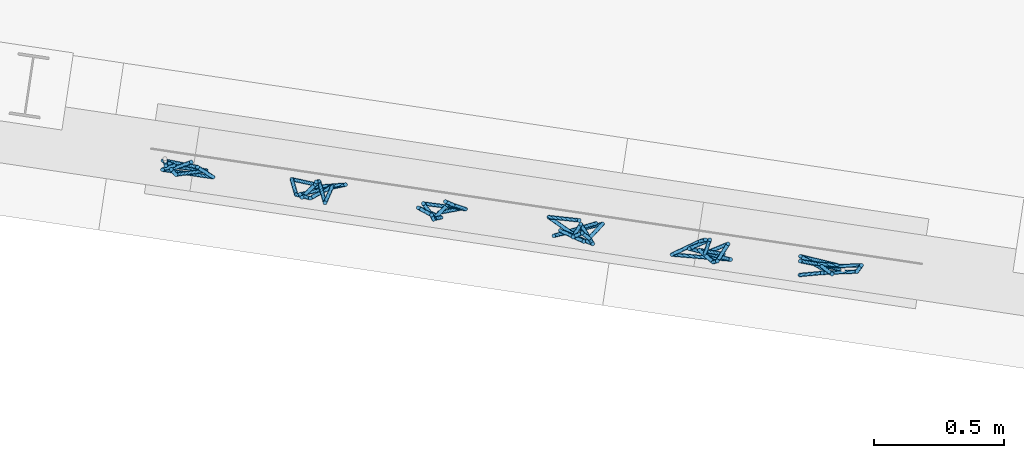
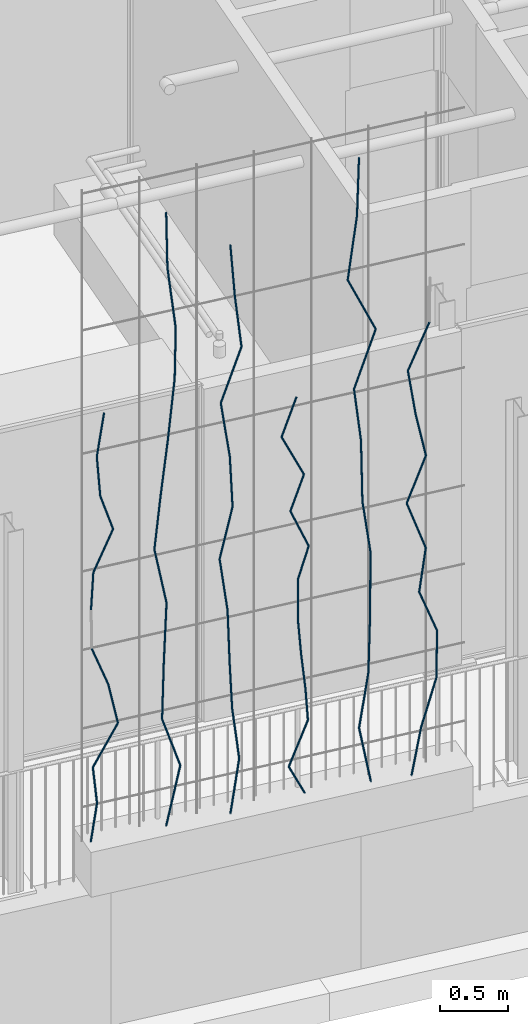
# One storey, part 111 of 142: 64 members, 1 element without a shape of its own.
"""IFC4 building model written with IfcOpenShell, lengths in metres."""

from ifc_helpers import new_model, si_unit, direction, frame, origin_with_axes, place, context, subcontext, project, spatial, circle, extrude, material, material_profile, profile_set, profile_usage, type_object, element, aggregate, save


model = new_model("IFC4")

# Units and contexts
model_context = context("Model", 3, precision=1e-05, world=origin_with_axes(), true_north=direction((0.0, 1.0)))
body_context = subcontext(model_context, "Body", "Model", "MODEL_VIEW")
ifc_project = project(units=[si_unit("VOLUMEUNIT", "CUBIC_METRE"), si_unit("LENGTHUNIT", "METRE"), si_unit("AREAUNIT", "SQUARE_METRE")], contexts=[model_context])

# Site, building, storey
site_placement = place(None, origin_with_axes())
site = spatial("IfcSite", under=ifc_project, at=site_placement, Name="Lares · Rua das Mercês · artigo 4771")
building_placement = place(site_placement, frame((12.0, 10.2, 13.9), z_axis=(0.0, 0.0, 1.0), x_axis=(0.989015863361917, -0.147809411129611, 0.0)))
building = spatial("IfcBuilding", under=site, at=building_placement, Name="Casa Sobreposta")
storey_placement = place(building_placement, origin_with_axes())
storey = spatial("IfcBuildingStorey", under=building, at=storey_placement, Name="00 · Habitação e estacionamento", Elevation=13.9)

# Assembly, members
assembly_placement = place(storey_placement, origin_with_axes())
assembly = element("IfcElementAssembly", 1, at=assembly_placement, inside=storey, Name="Fachada sul e pátio · estrutura e trepadeiras", ObjectType="LIVING_SHADE_TRELLIS", PredefinedType="USERDEFINED")
ifc_material = material(Name="Ramos de trepadeiras", Category="wood")
ifc_material_profile = material_profile(ifc_material, circle(Radius=0.0075))
ifc_profile_set = profile_set([ifc_material_profile], Name="D0.015")
ifc_profile_usage_1 = profile_usage(ifc_profile_set)
member_type = type_object("IfcMemberType", Name="D0.015 / vine_wood", PredefinedType="NOTDEFINED", material=ifc_profile_set)
member_1_placement = place(assembly_placement, frame((4.55197468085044, -1.64925982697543, 0.35), z_axis=(0.129792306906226, -0.0339326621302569, 0.990960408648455), x_axis=(-0.25293691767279, -0.967482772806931, 0.0)))
member_1 = element("IfcMember", 2, at=member_1_placement, type_object=member_type, material=ifc_profile_usage_1, Name="Trepadeiras · ramo", context=body_context, shape_type="SweptSolid", body=[
    extrude(circle(Radius=0.0075), origin_with_axes(), (0.0, 0.0, 1.0), 0.347845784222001),
])
ifc_profile_usage_2 = profile_usage(ifc_profile_set)
member_2_placement = place(assembly_placement, frame((4.59712238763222, -1.66106316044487, 0.694701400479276), z_axis=(-0.119928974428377, -0.0651007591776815, 0.990645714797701), x_axis=(-0.477071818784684, 0.878864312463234, 6.29674832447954e-18)))
member_2 = element("IfcMember", 3, at=member_2_placement, type_object=member_type, material=ifc_profile_usage_2, Name="Trepadeiras · ramo", context=body_context, shape_type="SweptSolid", body=[
    extrude(circle(Radius=0.0075), origin_with_axes(), (0.0, 0.0, 1.0), 0.347956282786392),
])
ifc_profile_usage_3 = profile_usage(ifc_profile_set)
member_3_placement = place(assembly_placement, frame((4.55539234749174, -1.68371537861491, 1.03940280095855), z_axis=(0.495642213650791, 0.000664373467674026, 0.86852654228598), x_axis=(0.00134042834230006, -0.999999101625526, 0.0)))
member_3 = element("IfcMember", 4, at=member_3_placement, type_object=member_type, material=ifc_profile_usage_3, Name="Trepadeiras · ramo", context=body_context, shape_type="SweptSolid", body=[
    extrude(circle(Radius=0.0075), origin_with_axes(), (0.0, 0.0, 1.0), 0.396880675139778),
])
ifc_profile_usage_4 = profile_usage(ifc_profile_set)
member_4_placement = place(assembly_placement, frame((4.75210316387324, -1.68345170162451, 1.38410420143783), z_axis=(-0.183626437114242, 0.0831823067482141, 0.97947028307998), x_axis=(0.41263397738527, 0.910896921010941, 0.0)))
member_4 = element("IfcMember", 5, at=member_4_placement, type_object=member_type, material=ifc_profile_usage_4, Name="Trepadeiras · ramo", context=body_context, shape_type="SweptSolid", body=[
    extrude(circle(Radius=0.0075), origin_with_axes(), (0.0, 0.0, 1.0), 0.351926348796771),
])
ifc_profile_usage_5 = profile_usage(ifc_profile_set)
member_5_placement = place(assembly_placement, frame((4.68748018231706, -1.65417765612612, 1.72880560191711), z_axis=(-0.345167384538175, 0.0158491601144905, 0.938407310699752), x_axis=(0.0458689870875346, 0.998947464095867, -2.35561623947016e-18)))
member_5 = element("IfcMember", 6, at=member_5_placement, type_object=member_type, material=ifc_profile_usage_5, Name="Trepadeiras · ramo", context=body_context, shape_type="SweptSolid", body=[
    extrude(circle(Radius=0.0075), origin_with_axes(), (0.0, 0.0, 1.0), 0.367325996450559),
])
ifc_profile_usage_6 = profile_usage(ifc_profile_set)
member_6_placement = place(assembly_placement, frame((4.55834222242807, -1.64024720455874, 2.41820840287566), z_axis=(0.0218448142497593, -0.0762401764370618, 0.996850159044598), x_axis=(-0.961317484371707, -0.275442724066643, 0.0)))
member_6 = element("IfcMember", 7, at=member_6_placement, type_object=member_type, material=ifc_profile_usage_6, Name="Trepadeiras · ramo", context=body_context, shape_type="SweptSolid", body=[
    extrude(circle(Radius=0.0075), origin_with_axes(), (0.0, 0.0, 1.0), 0.345790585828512),
])
ifc_profile_usage_7 = profile_usage(ifc_profile_set)
member_7_placement = place(assembly_placement, frame((4.56589595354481, -1.66661033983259, 2.76290980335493), z_axis=(0.414696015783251, 0.012751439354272, 0.909870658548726), x_axis=(0.0307343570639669, -0.999527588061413, 0.0)))
member_7 = element("IfcMember", 8, at=member_7_placement, type_object=member_type, material=ifc_profile_usage_7, Name="Trepadeiras · ramo", context=body_context, shape_type="SweptSolid", body=[
    extrude(circle(Radius=0.0075), origin_with_axes(), (0.0, 0.0, 1.0), 0.378846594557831),
])
ifc_profile_usage_8 = profile_usage(ifc_profile_set)
member_8_placement = place(assembly_placement, frame((4.72300212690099, -1.66177950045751, 3.10761120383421), z_axis=(-0.312467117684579, -0.0908269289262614, 0.945576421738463), x_axis=(-0.279123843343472, 0.960255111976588, 0.0)))
member_8 = element("IfcMember", 9, at=member_8_placement, type_object=member_type, material=ifc_profile_usage_8, Name="Trepadeiras · ramo", context=body_context, shape_type="SweptSolid", body=[
    extrude(circle(Radius=0.0075), origin_with_axes(), (0.0, 0.0, 1.0), 0.364541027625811),
])
ifc_profile_usage_9 = profile_usage(ifc_profile_set)
member_9_placement = place(assembly_placement, frame((4.60909504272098, -1.69488964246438, 3.45231260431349), z_axis=(-0.0585484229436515, 0.0497208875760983, 0.997045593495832), x_axis=(0.647306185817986, 0.762230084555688, 0.0)))
member_9 = element("IfcMember", 10, at=member_9_placement, type_object=member_type, material=ifc_profile_usage_9, Name="Trepadeiras · ramo", context=body_context, shape_type="SweptSolid", body=[
    extrude(circle(Radius=0.0075), origin_with_axes(), (0.0, 0.0, 1.0), 0.345722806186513),
])
ifc_profile_usage_10 = profile_usage(ifc_profile_set)
member_10_placement = place(assembly_placement, frame((4.58885351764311, -1.67769999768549, 3.79701400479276), z_axis=(0.203496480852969, 0.111178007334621, 0.97274284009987), x_axis=(0.479450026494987, -0.877569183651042, 0.0)))
member_10 = element("IfcMember", 11, at=member_10_placement, type_object=member_type, material=ifc_profile_usage_10, Name="Trepadeiras · ramo", context=body_context, shape_type="SweptSolid", body=[
    extrude(circle(Radius=0.0075), origin_with_axes(), (0.0, 0.0, 1.0), 0.354360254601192),
])
ifc_profile_usage_11 = profile_usage(ifc_profile_set)
member_11_placement = place(assembly_placement, frame((5.13738922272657, -1.66440915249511, 0.35), z_axis=(0.240432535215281, 0.0544142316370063, 0.96913945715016), x_axis=(0.22073565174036, -0.975333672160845, 0.0)))
member_11 = element("IfcMember", 12, at=member_11_placement, type_object=member_type, material=ifc_profile_usage_11, Name="Trepadeiras · ramo", context=body_context, shape_type="SweptSolid", body=[
    extrude(circle(Radius=0.0075), origin_with_axes(), (0.0, 0.0, 1.0), 0.511992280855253),
])
ifc_profile_usage_12 = profile_usage(ifc_profile_set)
member_12_placement = place(assembly_placement, frame((5.26048882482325, -1.63654948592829, 0.846191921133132), z_axis=(-0.318008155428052, -0.119200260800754, 0.940564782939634), x_axis=(-0.350987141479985, 0.936380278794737, 0.0)))
member_12 = element("IfcMember", 13, at=member_12_placement, type_object=member_type, material=ifc_profile_usage_12, Name="Trepadeiras · ramo", context=body_context, shape_type="SweptSolid", body=[
    extrude(circle(Radius=0.0075), origin_with_axes(), (0.0, 0.0, 1.0), 0.527546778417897),
])
ifc_profile_usage_13 = profile_usage(ifc_profile_set)
member_13_placement = place(assembly_placement, frame((5.09272464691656, -1.6994331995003, 1.34238384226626), z_axis=(0.0181040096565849, -0.0206847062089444, 0.999622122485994), x_axis=(0.999836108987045, 0.000374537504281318, -0.0181001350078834)))
member_13 = element("IfcMember", 14, at=member_13_placement, type_object=member_type, material=ifc_profile_usage_13, Name="Trepadeiras · ramo", context=body_context, shape_type="SweptSolid", body=[
    extrude(circle(Radius=0.0075), origin_with_axes(), (0.0, 0.0, 1.0), 0.49637949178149),
])
ifc_profile_usage_14 = profile_usage(ifc_profile_set)
member_14_placement = place(assembly_placement, frame((5.10171110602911, -1.70970066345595, 1.8385757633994), z_axis=(0.0881972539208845, 0.113613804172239, 0.989602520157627), x_axis=(0.789921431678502, -0.613208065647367, 0.0)))
member_14 = element("IfcMember", 15, at=member_14_placement, type_object=member_type, material=ifc_profile_usage_14, Name="Trepadeiras · ramo", context=body_context, shape_type="SweptSolid", body=[
    extrude(circle(Radius=0.0075), origin_with_axes(), (0.0, 0.0, 1.0), 0.5014052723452),
])
ifc_profile_usage_15 = profile_usage(ifc_profile_set)
member_15_placement = place(assembly_placement, frame((5.14593367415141, -1.65273410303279, 2.33476768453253), z_axis=(-0.18412719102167, 0.0119105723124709, 0.982830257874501), x_axis=(0.0645517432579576, 0.997914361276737, 0.0)))
member_15 = element("IfcMember", 16, at=member_15_placement, type_object=member_type, material=ifc_profile_usage_15, Name="Trepadeiras · ramo", context=body_context, shape_type="SweptSolid", body=[
    extrude(circle(Radius=0.0075), origin_with_axes(), (0.0, 0.0, 1.0), 0.50486024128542),
])
ifc_profile_usage_16 = profile_usage(ifc_profile_set)
member_16_placement = place(assembly_placement, frame((5.052975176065, -1.64672092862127, 2.83095960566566), z_axis=(0.0509410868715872, -0.111318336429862, 0.992478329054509), x_axis=(-0.909311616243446, -0.416115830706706, 0.0)))
member_16 = element("IfcMember", 17, at=member_16_placement, type_object=member_type, material=ifc_profile_usage_16, Name="Trepadeiras · ramo", context=body_context, shape_type="SweptSolid", body=[
    extrude(circle(Radius=0.0075), origin_with_axes(), (0.0, 0.0, 1.0), 0.499952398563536),
])
ifc_profile_usage_17 = profile_usage(ifc_profile_set)
member_17_placement = place(assembly_placement, frame((5.07844329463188, -1.70237479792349, 3.32715152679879), z_axis=(0.111662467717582, -0.0113171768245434, 0.993681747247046), x_axis=(-0.100835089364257, -0.994903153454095, 0.0)))
member_17 = element("IfcMember", 18, at=member_17_placement, type_object=member_type, material=ifc_profile_usage_17, Name="Trepadeiras · ramo", context=body_context, shape_type="SweptSolid", body=[
    extrude(circle(Radius=0.0075), origin_with_axes(), (0.0, 0.0, 1.0), 0.499346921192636),
])
ifc_profile_usage_18 = profile_usage(ifc_profile_set)
member_18_placement = place(assembly_placement, frame((5.13420160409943, -1.70802599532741, 3.82334344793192), z_axis=(0.150889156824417, 0.111712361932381, 0.982218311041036), x_axis=(0.595030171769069, -0.803703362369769, 0.0)))
member_18 = element("IfcMember", 19, at=member_18_placement, type_object=member_type, material=ifc_profile_usage_18, Name="Trepadeiras · ramo", context=body_context, shape_type="SweptSolid", body=[
    extrude(circle(Radius=0.0075), origin_with_axes(), (0.0, 0.0, 1.0), 0.505174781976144),
])
ifc_profile_usage_19 = profile_usage(ifc_profile_set)
member_19_placement = place(assembly_placement, frame((5.21042700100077, -1.65159172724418, 4.31953536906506), z_axis=(-0.0354680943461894, -0.131438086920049, 0.99068968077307), x_axis=(-0.965466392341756, 0.260527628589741, 0.0)))
member_19 = element("IfcMember", 20, at=member_19_placement, type_object=member_type, material=ifc_profile_usage_19, Name="Trepadeiras · ramo", context=body_context, shape_type="SweptSolid", body=[
    extrude(circle(Radius=0.0075), origin_with_axes(), (0.0, 0.0, 1.0), 0.500855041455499),
])
ifc_profile_usage_20 = profile_usage(ifc_profile_set)
member_20_placement = place(assembly_placement, frame((5.19266262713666, -1.71742315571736, 4.81572729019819), z_axis=(-0.0686747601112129, 0.155818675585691, 0.985395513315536), x_axis=(0.915066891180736, 0.403302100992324, 0.0)))
member_20 = element("IfcMember", 21, at=member_20_placement, type_object=member_type, material=ifc_profile_usage_20, Name="Trepadeiras · ramo", context=body_context, shape_type="SweptSolid", body=[
    extrude(circle(Radius=0.0075), origin_with_axes(), (0.0, 0.0, 1.0), 0.503545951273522),
])
ifc_profile_usage_21 = profile_usage(ifc_profile_set)
member_21_placement = place(assembly_placement, frame((5.15808172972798, -1.63896129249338, 5.31191921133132), z_axis=(-0.0221663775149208, -0.00749263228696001, 0.999726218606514), x_axis=(0.999754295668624, -0.000166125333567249, 0.0221657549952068)))
member_21 = element("IfcMember", 22, at=member_21_placement, type_object=member_type, material=ifc_profile_usage_21, Name="Trepadeiras · ramo", context=body_context, shape_type="SweptSolid", body=[
    extrude(circle(Radius=0.0075), origin_with_axes(), (0.0, 0.0, 1.0), 0.496327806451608),
])
ifc_profile_usage_22 = profile_usage(ifc_profile_set)
member_22_placement = place(assembly_placement, frame((5.63220136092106, -1.68990743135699, 0.35), z_axis=(0.173486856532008, 0.0605084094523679, 0.982975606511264), x_axis=(0.32932236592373, -0.944217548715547, 0.0)))
member_22 = element("IfcMember", 23, at=member_22_placement, type_object=member_type, material=ifc_profile_usage_22, Name="Trepadeiras · ramo", context=body_context, shape_type="SweptSolid", body=[
    extrude(circle(Radius=0.0075), origin_with_axes(), (0.0, 0.0, 1.0), 0.466118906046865),
])
ifc_profile_usage_23 = profile_usage(ifc_profile_set)
member_23_placement = place(assembly_placement, frame((5.71306686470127, -1.66170331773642, 0.808183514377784), z_axis=(-0.115708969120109, 0.0131407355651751, 0.993196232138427), x_axis=(0.1128417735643, 0.993612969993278, 0.0)))
member_23 = element("IfcMember", 24, at=member_23_placement, type_object=member_type, material=ifc_profile_usage_23, Name="Trepadeiras · ramo", context=body_context, shape_type="SweptSolid", body=[
    extrude(circle(Radius=0.0075), origin_with_axes(), (0.0, 0.0, 1.0), 0.461322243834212),
])
ifc_profile_usage_24 = profile_usage(ifc_profile_set)
member_24_placement = place(assembly_placement, frame((5.65968774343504, -1.65564120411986, 1.26636702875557), z_axis=(-0.0956717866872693, -0.135853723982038, 0.986098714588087), x_axis=(-0.817605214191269, 0.575779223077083, 0.0)))
member_24 = element("IfcMember", 25, at=member_24_placement, type_object=member_type, material=ifc_profile_usage_24, Name="Trepadeiras · ramo", context=body_context, shape_type="SweptSolid", body=[
    extrude(circle(Radius=0.0075), origin_with_axes(), (0.0, 0.0, 1.0), 0.464642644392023),
])
ifc_profile_usage_25 = profile_usage(ifc_profile_set)
member_25_placement = place(assembly_placement, frame((5.61523455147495, -1.71876463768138, 1.72455054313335), z_axis=(-0.0217451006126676, 0.0344773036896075, 0.999168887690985), x_axis=(0.999763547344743, 0.000749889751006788, 0.0217321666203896)))
member_25 = element("IfcMember", 26, at=member_25_placement, type_object=member_type, material=ifc_profile_usage_25, Name="Trepadeiras · ramo", context=body_context, shape_type="SweptSolid", body=[
    extrude(circle(Radius=0.0075), origin_with_axes(), (0.0, 0.0, 1.0), 0.458564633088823),
])
ifc_profile_usage_26 = profile_usage(ifc_profile_set)
member_26_placement = place(assembly_placement, frame((5.60526301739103, -1.70295456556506, 2.18273405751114), z_axis=(-0.118138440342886, 0.0429210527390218, 0.992069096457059), x_axis=(0.341473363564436, 0.939891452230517, 0.0)))
member_26 = element("IfcMember", 27, at=member_26_placement, type_object=member_type, material=ifc_profile_usage_26, Name="Trepadeiras · ramo", context=body_context, shape_type="SweptSolid", body=[
    extrude(circle(Radius=0.0075), origin_with_axes(), (0.0, 0.0, 1.0), 0.461846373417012),
])
ifc_profile_usage_27 = profile_usage(ifc_profile_set)
member_27_placement = place(assembly_placement, frame((5.55070120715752, -1.6831316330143, 2.64091757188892), z_axis=(0.19709303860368, -0.0505499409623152, 0.979080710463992), x_axis=(-0.248436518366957, -0.968648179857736, 0.0)))
member_27 = element("IfcMember", 28, at=member_27_placement, type_object=member_type, material=ifc_profile_usage_27, Name="Trepadeiras · ramo", context=body_context, shape_type="SweptSolid", body=[
    extrude(circle(Radius=0.0075), origin_with_axes(), (0.0, 0.0, 1.0), 0.467973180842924),
])
ifc_profile_usage_28 = profile_usage(ifc_profile_set)
member_28_placement = place(assembly_placement, frame((5.64293546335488, -1.70678764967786, 3.0991010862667), z_axis=(-0.054053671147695, -0.0197998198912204, 0.998341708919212), x_axis=(-0.343950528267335, 0.938987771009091, 0.0)))
member_28 = element("IfcMember", 29, at=member_28_placement, type_object=member_type, material=ifc_profile_usage_28, Name="Trepadeiras · ramo", context=body_context, shape_type="SweptSolid", body=[
    extrude(circle(Radius=0.0075), origin_with_axes(), (0.0, 0.0, 1.0), 0.458944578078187),
])
ifc_profile_usage_29 = profile_usage(ifc_profile_set)
member_29_placement = place(assembly_placement, frame((5.61812782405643, -1.71587466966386, 3.55728460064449), z_axis=(-0.109531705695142, 0.111331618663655, 0.987728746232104), x_axis=(0.712845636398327, 0.701320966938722, 0.0)))
member_29 = element("IfcMember", 30, at=member_29_placement, type_object=member_type, material=ifc_profile_usage_29, Name="Trepadeiras · ramo", context=body_context, shape_type="SweptSolid", body=[
    extrude(circle(Radius=0.0075), origin_with_axes(), (0.0, 0.0, 1.0), 0.463875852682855),
])
ifc_profile_usage_30 = profile_usage(ifc_profile_set)
member_30_placement = place(assembly_placement, frame((5.56731871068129, -1.6642306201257, 4.01546811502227), z_axis=(0.336572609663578, 0.00606468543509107, 0.941637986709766), x_axis=(0.0180160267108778, -0.999837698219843, 0.0)))
member_30 = element("IfcMember", 31, at=member_30_placement, type_object=member_type, material=ifc_profile_usage_30, Name="Trepadeiras · ramo", context=body_context, shape_type="SweptSolid", body=[
    extrude(circle(Radius=0.0075), origin_with_axes(), (0.0, 0.0, 1.0), 0.48658138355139),
])
ifc_profile_usage_31 = profile_usage(ifc_profile_set)
member_31_placement = place(assembly_placement, frame((5.73108867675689, -1.66127965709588, 4.47365162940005), z_axis=(-0.106013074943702, 0.0180386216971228, 0.994201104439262), x_axis=(0.167743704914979, 0.985830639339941, 0.0)))
member_31 = element("IfcMember", 32, at=member_31_placement, type_object=member_type, material=ifc_profile_usage_31, Name="Trepadeiras · ramo", context=body_context, shape_type="SweptSolid", body=[
    extrude(circle(Radius=0.0075), origin_with_axes(), (0.0, 0.0, 1.0), 0.460855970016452),
])
ifc_profile_usage_32 = profile_usage(ifc_profile_set)
member_32_placement = place(assembly_placement, frame((5.68223191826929, -1.6529664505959, 4.93183514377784), z_axis=(-0.0697881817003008, 0.0188845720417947, 0.997383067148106), x_axis=(0.261204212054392, 0.965283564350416, 0.0)))
member_32 = element("IfcMember", 33, at=member_32_placement, type_object=member_type, material=ifc_profile_usage_32, Name="Trepadeiras · ramo", context=body_context, shape_type="SweptSolid", body=[
    extrude(circle(Radius=0.0075), origin_with_axes(), (0.0, 0.0, 1.0), 0.459385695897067),
])
ifc_profile_usage_33 = profile_usage(ifc_profile_set)
member_33_placement = place(assembly_placement, frame((6.23679718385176, -1.64103048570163, 0.35), z_axis=(-0.42416376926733, -0.196770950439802, 0.883949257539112), x_axis=(-0.420825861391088, 0.90714144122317, 0.0)))
member_33 = element("IfcMember", 34, at=member_33_placement, type_object=member_type, material=ifc_profile_usage_33, Name="Trepadeiras · ramo", context=body_context, shape_type="SweptSolid", body=[
    extrude(circle(Radius=0.0075), origin_with_axes(), (0.0, 0.0, 1.0), 0.364794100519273),
])
ifc_profile_usage_34 = profile_usage(ifc_profile_set)
member_34_placement = place(assembly_placement, frame((6.08206474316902, -1.71281136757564, 0.67245947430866), z_axis=(0.475917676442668, 0.19443061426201, 0.857729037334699), x_axis=(0.378194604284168, -0.925726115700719, 0.0)))
member_34 = element("IfcMember", 35, at=member_34_placement, type_object=member_type, material=ifc_profile_usage_34, Name="Trepadeiras · ramo", context=body_context, shape_type="SweptSolid", body=[
    extrude(circle(Radius=0.0075), origin_with_axes(), (0.0, 0.0, 1.0), 0.375945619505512),
])
ifc_profile_usage_35 = profile_usage(ifc_profile_set)
member_35_placement = place(assembly_placement, frame((6.26098390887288, -1.63971602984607, 0.994918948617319), z_axis=(-0.130658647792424, -0.188661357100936, 0.973311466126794), x_axis=(-0.822096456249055, 0.569348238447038, 0.0)))
member_35 = element("IfcMember", 36, at=member_35_placement, type_object=member_type, material=ifc_profile_usage_35, Name="Trepadeiras · ramo", context=body_context, shape_type="SweptSolid", body=[
    extrude(circle(Radius=0.0075), origin_with_axes(), (0.0, 0.0, 1.0), 0.331301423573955),
])
ifc_profile_usage_36 = profile_usage(ifc_profile_set)
member_36_placement = place(assembly_placement, frame((6.21769651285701, -1.702219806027, 1.31737842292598), z_axis=(-0.0893962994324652, 0.0502500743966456, 0.994727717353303), x_axis=(0.489999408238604, 0.871722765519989, 0.0)))
member_36 = element("IfcMember", 37, at=member_36_placement, type_object=member_type, material=ifc_profile_usage_36, Name="Trepadeiras · ramo", context=body_context, shape_type="SweptSolid", body=[
    extrude(circle(Radius=0.0075), origin_with_axes(), (0.0, 0.0, 1.0), 0.324168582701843),
])
ifc_profile_usage_37 = profile_usage(ifc_profile_set)
member_37_placement = place(assembly_placement, frame((6.18871704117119, -1.68593031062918, 1.63983789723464), z_axis=(-0.100606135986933, -0.0629655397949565, 0.992931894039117), x_axis=(-0.53052417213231, 0.847669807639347, 0.0)))
member_37 = element("IfcMember", 38, at=member_37_placement, type_object=member_type, material=ifc_profile_usage_37, Name="Trepadeiras · ramo", context=body_context, shape_type="SweptSolid", body=[
    extrude(circle(Radius=0.0075), origin_with_axes(), (0.0, 0.0, 1.0), 0.324754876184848),
])
ifc_profile_usage_38 = profile_usage(ifc_profile_set)
member_38_placement = place(assembly_placement, frame((6.15604470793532, -1.70637867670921, 1.9622973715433), z_axis=(0.068330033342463, 0.161303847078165, 0.984536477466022), x_axis=(0.920790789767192, -0.390056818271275, 0.0)))
member_38 = element("IfcMember", 39, at=member_38_placement, type_object=member_type, material=ifc_profile_usage_38, Name="Trepadeiras · ramo", context=body_context, shape_type="SweptSolid", body=[
    extrude(circle(Radius=0.0075), origin_with_axes(), (0.0, 0.0, 1.0), 0.327524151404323),
])
ifc_profile_usage_39 = profile_usage(ifc_profile_set)
member_39_placement = place(assembly_placement, frame((6.17842444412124, -1.65354777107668, 2.28475684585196), z_axis=(0.170380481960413, -0.202410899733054, 0.964365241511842), x_axis=(-0.765043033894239, -0.64397915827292, 0.0)))
member_39 = element("IfcMember", 40, at=member_39_placement, type_object=member_type, material=ifc_profile_usage_39, Name="Trepadeiras · ramo", context=body_context, shape_type="SweptSolid", body=[
    extrude(circle(Radius=0.0075), origin_with_axes(), (0.0, 0.0, 1.0), 0.334374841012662),
])
ifc_profile_usage_40 = profile_usage(ifc_profile_set)
member_40_placement = place(assembly_placement, frame((6.23539539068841, -1.72122888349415, 2.60721632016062), z_axis=(-0.376155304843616, 0.0917282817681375, 0.922004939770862), x_axis=(0.236914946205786, 0.971530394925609, 0.0)))
member_40 = element("IfcMember", 41, at=member_40_placement, type_object=member_type, material=ifc_profile_usage_40, Name="Trepadeiras · ramo", context=body_context, shape_type="SweptSolid", body=[
    extrude(circle(Radius=0.0075), origin_with_axes(), (0.0, 0.0, 1.0), 0.349737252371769),
])
ifc_profile_usage_41 = profile_usage(ifc_profile_set)
member_41_placement = place(assembly_placement, frame((6.10383986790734, -1.68914808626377, 2.92967579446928), z_axis=(0.282893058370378, -0.0830680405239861, 0.955547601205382), x_axis=(-0.281742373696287, -0.959490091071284, 0.0)))
member_41 = element("IfcMember", 42, at=member_41_placement, type_object=member_type, material=ifc_profile_usage_41, Name="Trepadeiras · ramo", context=body_context, shape_type="SweptSolid", body=[
    extrude(circle(Radius=0.0075), origin_with_axes(), (0.0, 0.0, 1.0), 0.337460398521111),
])
ifc_profile_usage_42 = profile_usage(ifc_profile_set)
member_42_placement = place(assembly_placement, frame((6.19930507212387, -1.71718026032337, 3.25213526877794), z_axis=(-0.406099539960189, 0.201123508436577, 0.891421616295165), x_axis=(0.443809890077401, 0.896120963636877, 0.0)))
member_42 = element("IfcMember", 43, at=member_42_placement, type_object=member_type, material=ifc_profile_usage_42, Name="Trepadeiras · ramo", context=body_context, shape_type="SweptSolid", body=[
    extrude(circle(Radius=0.0075), origin_with_axes(), (0.0, 0.0, 1.0), 0.361736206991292),
])
ifc_profile_usage_43 = profile_usage(ifc_profile_set)
member_43_placement = place(assembly_placement, frame((6.05240416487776, -1.64442660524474, 3.5745947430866), z_axis=(0.344211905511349, 0.0140146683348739, 0.938787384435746), x_axis=(0.0406815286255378, -0.999172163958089, 0.0)))
member_43 = element("IfcMember", 44, at=member_43_placement, type_object=member_type, material=ifc_profile_usage_43, Name="Trepadeiras · ramo", context=body_context, shape_type="SweptSolid", body=[
    extrude(circle(Radius=0.0075), origin_with_axes(), (0.0, 0.0, 1.0), 0.343485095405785),
])
ifc_profile_usage_44 = profile_usage(ifc_profile_set)
member_44_placement = place(assembly_placement, frame((6.73808430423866, -1.68561583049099, 0.35), z_axis=(-0.181547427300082, 0.00211914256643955, 0.983379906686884), x_axis=(0.0116718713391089, 0.999931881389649, 0.0)))
member_44 = element("IfcMember", 45, at=member_44_placement, type_object=member_type, material=ifc_profile_usage_44, Name="Trepadeiras · ramo", context=body_context, shape_type="SweptSolid", body=[
    extrude(circle(Radius=0.0075), origin_with_axes(), (0.0, 0.0, 1.0), 0.513770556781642),
])
ifc_profile_usage_45 = profile_usage(ifc_profile_set)
member_45_placement = place(assembly_placement, frame((6.64481058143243, -1.68452707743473, 0.8552316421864), z_axis=(0.114898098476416, -0.0745573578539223, 0.990575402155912), x_axis=(-0.544339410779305, -0.838865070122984, -1.2545762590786e-17)))
member_45 = element("IfcMember", 46, at=member_45_placement, type_object=member_type, material=ifc_profile_usage_45, Name="Trepadeiras · ramo", context=body_context, shape_type="SweptSolid", body=[
    extrude(circle(Radius=0.0075), origin_with_axes(), (0.0, 0.0, 1.0), 0.510038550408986),
])
ifc_profile_usage_46 = profile_usage(ifc_profile_set)
member_46_placement = place(assembly_placement, frame((6.70341304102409, -1.72255420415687, 1.3604632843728), z_axis=(0.0306536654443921, 0.0133643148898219, 0.999440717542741), x_axis=(0.999530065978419, -0.000409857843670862, -0.0306509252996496)))
member_46 = element("IfcMember", 47, at=member_46_placement, type_object=member_type, material=ifc_profile_usage_46, Name="Trepadeiras · ramo", context=body_context, shape_type="SweptSolid", body=[
    extrude(circle(Radius=0.0075), origin_with_axes(), (0.0, 0.0, 1.0), 0.505514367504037),
])
ifc_profile_usage_47 = profile_usage(ifc_profile_set)
member_47_placement = place(assembly_placement, frame((6.71890890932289, -1.71579835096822, 1.8656949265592), z_axis=(0.0613470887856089, 0.139942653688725, 0.988257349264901), x_axis=(0.915863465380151, -0.40148986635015, -1.12196920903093e-17)))
member_47 = element("IfcMember", 48, at=member_47_placement, type_object=member_type, material=ifc_profile_usage_47, Name="Trepadeiras · ramo", context=body_context, shape_type="SweptSolid", body=[
    extrude(circle(Radius=0.0075), origin_with_axes(), (0.0, 0.0, 1.0), 0.511234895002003),
])
ifc_profile_usage_48 = profile_usage(ifc_profile_set)
member_48_placement = place(assembly_placement, frame((6.75027168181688, -1.64425478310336, 2.3709265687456), z_axis=(-0.160372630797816, -0.0941871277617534, 0.982552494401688), x_axis=(-0.506421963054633, 0.862285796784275, 0.0)))
member_48 = element("IfcMember", 49, at=member_48_placement, type_object=member_type, material=ifc_profile_usage_48, Name="Trepadeiras · ramo", context=body_context, shape_type="SweptSolid", body=[
    extrude(circle(Radius=0.0075), origin_with_axes(), (0.0, 0.0, 1.0), 0.514203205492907),
])
ifc_profile_usage_49 = profile_usage(ifc_profile_set)
member_49_placement = place(assembly_placement, frame((6.66780756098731, -1.69268610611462, 2.876158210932), z_axis=(0.0197044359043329, 0.105077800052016, 0.994268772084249), x_axis=(0.982868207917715, -0.18430975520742, 0.0)))
member_49 = element("IfcMember", 50, at=member_49_placement, type_object=member_type, material=ifc_profile_usage_49, Name="Trepadeiras · ramo", context=body_context, shape_type="SweptSolid", body=[
    extrude(circle(Radius=0.0075), origin_with_axes(), (0.0, 0.0, 1.0), 0.508143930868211),
])
ifc_profile_usage_50 = profile_usage(ifc_profile_set)
member_50_placement = place(assembly_placement, frame((6.67782025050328, -1.63929145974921, 3.3813898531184), z_axis=(-0.141774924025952, -0.0883735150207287, 0.985946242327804), x_axis=(-0.528983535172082, 0.848632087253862, 0.0)))
member_50 = element("IfcMember", 51, at=member_50_placement, type_object=member_type, material=ifc_profile_usage_50, Name="Trepadeiras · ramo", context=body_context, shape_type="SweptSolid", body=[
    extrude(circle(Radius=0.0075), origin_with_axes(), (0.0, 0.0, 1.0), 0.512433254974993),
])
ifc_profile_usage_51 = profile_usage(ifc_profile_set)
member_51_placement = place(assembly_placement, frame((6.60517006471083, -1.68457698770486, 3.8866214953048), z_axis=(0.307758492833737, -0.0338588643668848, 0.950861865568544), x_axis=(-0.109357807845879, -0.99400244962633, 0.0)))
member_51 = element("IfcMember", 52, at=member_51_placement, type_object=member_type, material=ifc_profile_usage_51, Name="Trepadeiras · ramo", context=body_context, shape_type="SweptSolid", body=[
    extrude(circle(Radius=0.0075), origin_with_axes(), (0.0, 0.0, 1.0), 0.531340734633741),
])
ifc_profile_usage_52 = profile_usage(ifc_profile_set)
member_52_placement = place(assembly_placement, frame((6.76869468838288, -1.70256758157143, 4.3918531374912), z_axis=(-0.408006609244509, -0.0258958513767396, 0.91261164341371), x_axis=(-0.063341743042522, 0.997991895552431, 0.0)))
member_52 = element("IfcMember", 53, at=member_52_placement, type_object=member_type, material=ifc_profile_usage_52, Name="Trepadeiras · ramo", context=body_context, shape_type="SweptSolid", body=[
    extrude(circle(Radius=0.0075), origin_with_axes(), (0.0, 0.0, 1.0), 0.553610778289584),
])
ifc_profile_usage_53 = profile_usage(ifc_profile_set)
member_53_placement = place(assembly_placement, frame((6.54281783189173, -1.71690380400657, 4.8970847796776), z_axis=(0.191503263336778, 0.128508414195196, 0.973042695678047), x_axis=(0.557217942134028, -0.830366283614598, 0.0)))
member_53 = element("IfcMember", 54, at=member_53_placement, type_object=member_type, material=ifc_profile_usage_53, Name="Trepadeiras · ramo", context=body_context, shape_type="SweptSolid", body=[
    extrude(circle(Radius=0.0075), origin_with_axes(), (0.0, 0.0, 1.0), 0.519228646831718),
])
ifc_profile_usage_54 = profile_usage(ifc_profile_set)
member_54_placement = place(assembly_placement, frame((6.64225181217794, -1.65017855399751, 5.402316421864), z_axis=(0.0377144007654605, 0.0174593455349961, 0.999136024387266), x_axis=(0.999288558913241, -0.000658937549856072, -0.0377086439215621)))
member_54 = element("IfcMember", 55, at=member_54_placement, type_object=member_type, material=ifc_profile_usage_54, Name="Trepadeiras · ramo", context=body_context, shape_type="SweptSolid", body=[
    extrude(circle(Radius=0.0075), origin_with_axes(), (0.0, 0.0, 1.0), 0.505668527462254),
])
ifc_profile_usage_55 = profile_usage(ifc_profile_set)
member_55_placement = place(assembly_placement, frame((7.0409717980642, -1.72179415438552, 0.35), z_axis=(0.206799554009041, 0.0504590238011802, 0.977081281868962), x_axis=(0.237045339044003, -0.971498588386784, 0.0)))
member_55 = element("IfcMember", 56, at=member_55_placement, type_object=member_type, material=ifc_profile_usage_55, Name="Trepadeiras · ramo", context=body_context, shape_type="SweptSolid", body=[
    extrude(circle(Radius=0.0075), origin_with_axes(), (0.0, 0.0, 1.0), 0.40704822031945),
])
ifc_profile_usage_56 = profile_usage(ifc_profile_set)
member_56_placement = place(assembly_placement, frame((7.12514918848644, -1.7012548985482, 0.747719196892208), z_axis=(0.311542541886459, 0.0586496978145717, 0.948420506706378), x_axis=(0.185006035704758, -0.982737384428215, 0.0)))
member_56 = element("IfcMember", 57, at=member_56_placement, type_object=member_type, material=ifc_profile_usage_56, Name="Trepadeiras · ramo", context=body_context, shape_type="SweptSolid", body=[
    extrude(circle(Radius=0.0075), origin_with_axes(), (0.0, 0.0, 1.0), 0.419349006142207),
])
ifc_profile_usage_57 = profile_usage(ifc_profile_set)
member_57_placement = place(assembly_placement, frame((7.25579424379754, -1.67666020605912, 1.14543839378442), z_axis=(0.0355192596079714, 0.0656197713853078, 0.997212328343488), x_axis=(0.879431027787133, -0.476026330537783, 0.0)))
member_57 = element("IfcMember", 58, at=member_57_placement, type_object=member_type, material=ifc_profile_usage_57, Name="Trepadeiras · ramo", context=body_context, shape_type="SweptSolid", body=[
    extrude(circle(Radius=0.0075), origin_with_axes(), (0.0, 0.0, 1.0), 0.398831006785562),
])
ifc_profile_usage_58 = profile_usage(ifc_profile_set)
member_58_placement = place(assembly_placement, frame((7.26996042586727, -1.65048900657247, 1.54315759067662), z_axis=(-0.352017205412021, -0.0610474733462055, 0.934000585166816), x_axis=(-0.170871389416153, 0.985293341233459, 0.0)))
member_58 = element("IfcMember", 59, at=member_58_placement, type_object=member_type, material=ifc_profile_usage_58, Name="Trepadeiras · ramo", context=body_context, shape_type="SweptSolid", body=[
    extrude(circle(Radius=0.0075), origin_with_axes(), (0.0, 0.0, 1.0), 0.425823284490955),
])
ifc_profile_usage_59 = profile_usage(ifc_profile_set)
member_59_placement = place(assembly_placement, frame((7.12006330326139, -1.67648444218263, 1.94087678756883), z_axis=(0.106642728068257, -0.0582669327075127, 0.992588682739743), x_axis=(-0.479474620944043, -0.877555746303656, 0.0)))
member_59 = element("IfcMember", 60, at=member_59_placement, type_object=member_type, material=ifc_profile_usage_59, Name="Trepadeiras · ramo", context=body_context, shape_type="SweptSolid", body=[
    extrude(circle(Radius=0.0075), origin_with_axes(), (0.0, 0.0, 1.0), 0.400688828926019),
])
ifc_profile_usage_60 = profile_usage(ifc_profile_set)
member_60_placement = place(assembly_placement, frame((7.16279385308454, -1.69983135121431, 2.33859598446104), z_axis=(-0.309633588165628, 0.117325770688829, 0.943589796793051), x_axis=(0.35433355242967, 0.935119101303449, 0.0)))
member_60 = element("IfcMember", 61, at=member_60_placement, type_object=member_type, material=ifc_profile_usage_60, Name="Trepadeiras · ramo", context=body_context, shape_type="SweptSolid", body=[
    extrude(circle(Radius=0.0075), origin_with_axes(), (0.0, 0.0, 1.0), 0.421495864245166),
])
ifc_profile_usage_61 = profile_usage(ifc_profile_set)
member_61_placement = place(assembly_placement, frame((7.03228457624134, -1.6503790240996, 2.73631518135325), z_axis=(0.34367232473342, -0.0309587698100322, 0.938579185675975), x_axis=(-0.0897189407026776, -0.99596712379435, 0.0)))
member_61 = element("IfcMember", 62, at=member_61_placement, type_object=member_type, material=ifc_profile_usage_61, Name="Trepadeiras · ramo", context=body_context, shape_type="SweptSolid", body=[
    extrude(circle(Radius=0.0075), origin_with_axes(), (0.0, 0.0, 1.0), 0.423746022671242),
])
ifc_profile_usage_62 = profile_usage(ifc_profile_set)
member_62_placement = place(assembly_placement, frame((7.1779143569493, -1.66349767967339, 3.13403437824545), z_axis=(-0.206255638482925, -0.0155963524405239, 0.978373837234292), x_axis=(-0.0754013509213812, 0.997153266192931, 0.0)))
member_62 = element("IfcMember", 63, at=member_62_placement, type_object=member_type, material=ifc_profile_usage_62, Name="Trepadeiras · ramo", context=body_context, shape_type="SweptSolid", body=[
    extrude(circle(Radius=0.0075), origin_with_axes(), (0.0, 0.0, 1.0), 0.406510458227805),
])
ifc_profile_usage_63 = profile_usage(ifc_profile_set)
member_63_placement = place(assembly_placement, frame((7.09406928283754, -1.66983776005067, 3.53175357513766), z_axis=(-0.148424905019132, 0.0027206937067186, 0.988919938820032), x_axis=(0.0183273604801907, 0.999832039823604, 0.0)))
member_63 = element("IfcMember", 64, at=member_63_placement, type_object=member_type, material=ifc_profile_usage_63, Name="Trepadeiras · ramo", context=body_context, shape_type="SweptSolid", body=[
    extrude(circle(Radius=0.0075), origin_with_axes(), (0.0, 0.0, 1.0), 0.402175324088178),
])
ifc_profile_usage_64 = profile_usage(ifc_profile_set)
member_64_placement = place(assembly_placement, frame((7.03437644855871, -1.66874356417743, 3.92947277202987), z_axis=(0.384388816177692, -0.0208349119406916, 0.92293615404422), x_axis=(-0.0541232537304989, -0.998534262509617, 0.0)))
member_64 = element("IfcMember", 65, at=member_64_placement, type_object=member_type, material=ifc_profile_usage_64, Name="Trepadeiras · ramo", context=body_context, shape_type="SweptSolid", body=[
    extrude(circle(Radius=0.0075), origin_with_axes(), (0.0, 0.0, 1.0), 0.430928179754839),
])
aggregate(assembly, [member_1, member_2, member_3, member_4, member_5, member_6, member_7, member_8, member_9, member_10, member_11, member_12, member_13, member_14, member_15, member_16, member_17, member_18, member_19, member_20, member_21, member_22, member_23, member_24, member_25, member_26, member_27, member_28, member_29, member_30, member_31, member_32, member_33, member_34, member_35, member_36, member_37, member_38, member_39, member_40, member_41, member_42, member_43, member_44, member_45, member_46, member_47, member_48, member_49, member_50, member_51, member_52, member_53, member_54, member_55, member_56, member_57, member_58, member_59, member_60, member_61, member_62, member_63, member_64])

save(model, "model.ifc")
